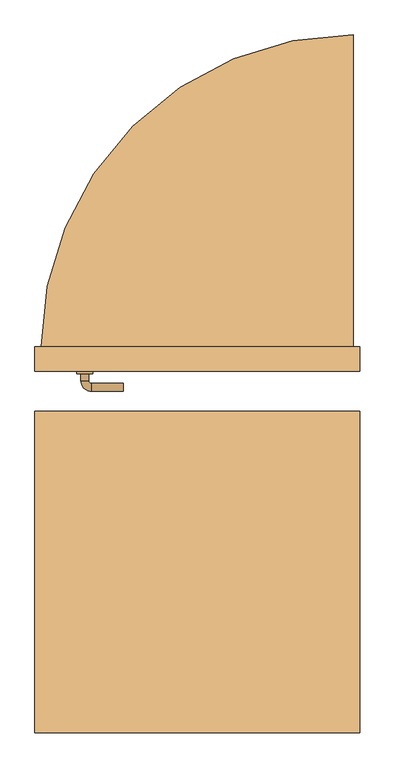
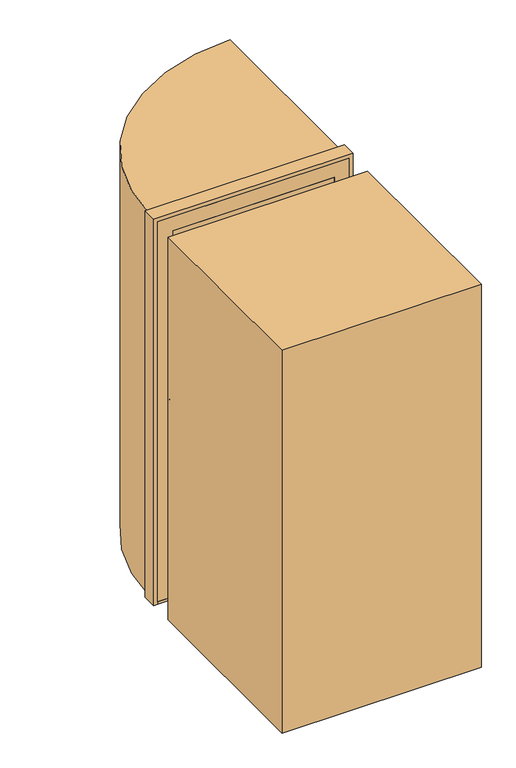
"""IFC4 building model written with IfcOpenShell, lengths in millimetres: door geometry, Дверь_Стальная_Наружная_Однопольная_ГОСТ_31173-2016 : 1010 х 2070(h)_Л_Обычная_с Порогом."""

from ifc_helpers import new_model, si_unit, point, frame, frame_2d, origin, origin_with_axes, place, context, project, spatial, polyline, circle_curve, ellipse_curve, trimmed, segment, composite_curve, outline, extrude, source, transform, mapped, element, save
from ifc_brep_helpers import plane_surface, cylinder_surface, revolved_surface, advanced_brep


def door_b13809c9(model_context):
    return source(origin(), model_context, "Body", "SolidModel", [
        extrude(outline(polyline([(-505.0, -1100.0), (-505.0, -100.0), (505.0, -100.0), (505.0, -1100.0), (-505.0, -1100.0)])), origin_with_axes(), (0.0, 0.0, 1.0), 2050.0),
        extrude(outline(composite_curve([segment(polyline([(485.0, 1070.0), (485.0, 100.0), (-485.0, 100.0)]), True, "CONTINUOUS"), segment(trimmed(circle_curve(frame_2d((485.0, 100.0)), 970.0), [point((-485.0, 100.0))], [point((485.0, 1070.0))], False, "CARTESIAN"), True, "CONTINUOUS")], self_intersect=False)), origin_with_axes(), (0.0, 0.0, 1.0), 2050.0),
        advanced_brep(
        [(-230.0, 162.0, 987.5), (-230.0, 138.0, 987.5), (-330.0, 162.0, 987.5), (-330.0, 138.0, 987.5), (-362.0, 130.0, 987.5), (-338.0, 130.0, 987.5), (-362.0, 108.0, 987.5), (-338.0, 108.0, 987.5), (-362.0, -5.0, 987.5), (-338.0, -5.0, 987.5), (-338.0, 17.0, 987.5), (-362.0, 17.0, 987.5), (-330.0, -37.0, 987.5), (-330.0, -13.0, 987.5), (-230.0, -37.0, 987.5), (-230.0, -13.0, 987.5), (-375.0, 108.0, 987.5), (-325.0, 108.0, 987.5), (-375.0, 17.0, 987.5), (-325.0, 17.0, 987.5)],
        [
            (0, 1, circle_curve(frame((-230.0, 150.0, 987.5), z_axis=(1.0, 0.0, 0.0), x_axis=(0.0, -1.0, 0.0)), 12.0)),
            (1, 0, circle_curve(frame((-230.0, 150.0, 987.5), z_axis=(1.0, 0.0, 0.0), x_axis=(0.0, -1.0, 0.0)), 12.0)),
            (0, 2),
            (2, 3, circle_curve(frame((-330.0, 150.0, 987.5), z_axis=(1.0, 0.0, 0.0), x_axis=(0.0, -1.0, 0.0)), 12.0)),
            (3, 1),
            (3, 2, circle_curve(frame((-330.0, 150.0, 987.5), z_axis=(1.0, 0.0, 0.0), x_axis=(0.0, -1.0, 0.0)), 12.0)),
            (2, 4, circle_curve(frame((-330.0, 130.0, 987.5), z_axis=(0.0, 0.0, 1.0), x_axis=(0.0, 1.0, 0.0)), 32.0)),
            (4, 5, circle_curve(frame((-350.0, 130.0, 987.5), z_axis=(0.0, 1.0, 0.0), x_axis=(1.0, 0.0, 0.0)), 12.0)),
            (5, 3, circle_curve(frame((-330.0, 130.0, 987.5), z_axis=(0.0, 0.0, -1.0), x_axis=(0.0, 1.0, 0.0)), 8.0)),
            (5, 4, circle_curve(frame((-350.0, 130.0, 987.5), z_axis=(0.0, 1.0, 0.0), x_axis=(1.0, 0.0, 0.0)), 12.0)),
            (4, 6),
            (6, 7, circle_curve(frame((-350.0, 108.0, 987.5), z_axis=(0.0, 1.0, 0.0), x_axis=(1.0, 0.0, 0.0)), 12.0)),
            (7, 5),
            (8, 9, circle_curve(frame((-350.0, -5.0, 987.5), z_axis=(0.0, 1.0, 0.0), x_axis=(1.0, 0.0, 0.0)), 12.0)),
            (9, 10),
            (10, 11, circle_curve(frame((-350.0, 17.0, 987.5), z_axis=(0.0, -1.0, 0.0), x_axis=(1.0, 0.0, 0.0)), 12.0)),
            (11, 8),
            (7, 6, circle_curve(frame((-350.0, 108.0, 987.5), z_axis=(0.0, 1.0, 0.0), x_axis=(1.0, 0.0, 0.0)), 12.0)),
            (9, 8, circle_curve(frame((-350.0, -5.0, 987.5), z_axis=(0.0, 1.0, 0.0), x_axis=(1.0, 0.0, 0.0)), 12.0)),
            (11, 10, circle_curve(frame((-350.0, 17.0, 987.5), z_axis=(0.0, -1.0, 0.0), x_axis=(1.0, 0.0, 0.0)), 12.0)),
            (8, 12, circle_curve(frame((-330.0, -5.0, 987.5), z_axis=(0.0, 0.0, 1.0), x_axis=(-1.0, 0.0, 0.0)), 32.0)),
            (12, 13, circle_curve(frame((-330.0, -25.0, 987.5), z_axis=(-1.0, 0.0, 0.0), x_axis=(0.0, 1.0, 0.0)), 12.0)),
            (13, 9, circle_curve(frame((-330.0, -5.0, 987.5), z_axis=(0.0, 0.0, -1.0), x_axis=(-1.0, 0.0, 0.0)), 8.0)),
            (13, 12, circle_curve(frame((-330.0, -25.0, 987.5), z_axis=(-1.0, 0.0, 0.0), x_axis=(0.0, 1.0, 0.0)), 12.0)),
            (14, 15, circle_curve(frame((-230.0, -25.0, 987.5), z_axis=(1.0, 0.0, 0.0), x_axis=(0.0, 1.0, 0.0)), 12.0)),
            (15, 14, circle_curve(frame((-230.0, -25.0, 987.5), z_axis=(1.0, 0.0, 0.0), x_axis=(0.0, 1.0, 0.0)), 12.0)),
            (12, 14),
            (15, 13),
            (16, 17, circle_curve(frame((-350.0, 108.0, 987.5), z_axis=(0.0, 1.0, 0.0), x_axis=(1.0, 0.0, 0.0)), 25.0)),
            (17, 16, circle_curve(frame((-350.0, 108.0, 987.5), z_axis=(0.0, 1.0, 0.0), x_axis=(1.0, 0.0, 0.0)), 25.0)),
            (18, 19, circle_curve(frame((-350.0, 17.0, 987.5), z_axis=(0.0, -1.0, 0.0), x_axis=(1.0, 0.0, 0.0)), 25.0)),
            (19, 18, circle_curve(frame((-350.0, 17.0, 987.5), z_axis=(0.0, -1.0, 0.0), x_axis=(1.0, 0.0, 0.0)), 25.0)),
            (17, 19),
            (18, 16),
        ],
        [
            plane_surface(frame((-230.0, 150.0, 987.5), z_axis=(1.0, 0.0, 0.0), x_axis=(0.0, 0.0, 1.0))),
            cylinder_surface(frame((-230.0, 150.0, 987.5), z_axis=(1.0, 0.0, 0.0), x_axis=(0.0, -1.0, 0.0)), 12.0),
            revolved_surface(trimmed(ellipse_curve(frame((-330.0, 150.0, 987.5), z_axis=(1.0, 0.0, 0.0), x_axis=(0.0, -1.0, 0.0)), 12.0, 12.0), [point((-330.0, 162.0, 987.5))], [point((-330.0, 138.0, 987.5))], True, "CARTESIAN"), (-330.0, 130.0, 987.5), (0.0, 0.0, 1.0)),
            revolved_surface(trimmed(ellipse_curve(frame((-330.0, 150.0, 987.5), z_axis=(1.0, 0.0, 0.0), x_axis=(0.0, -1.0, 0.0)), 12.0, 12.0), [point((-330.0, 138.0, 987.5))], [point((-330.0, 162.0, 987.5))], True, "CARTESIAN"), (-330.0, 130.0, 987.5), (0.0, 0.0, 1.0)),
            cylinder_surface(frame((-350.0, 130.0, 987.5), z_axis=(0.0, 1.0, 0.0), x_axis=(1.0, 0.0, 0.0)), 12.0),
            revolved_surface(trimmed(ellipse_curve(frame((-350.0, -5.0, 987.5), z_axis=(0.0, 1.0, 0.0), x_axis=(1.0, 0.0, 0.0)), 12.0, 12.0), [point((-362.0, -5.0, 987.5))], [point((-338.0, -5.0, 987.5))], True, "CARTESIAN"), (-330.0, -5.0, 987.5), (0.0, 0.0, 1.0)),
            revolved_surface(trimmed(ellipse_curve(frame((-350.0, -5.0, 987.5), z_axis=(0.0, 1.0, 0.0), x_axis=(1.0, 0.0, 0.0)), 12.0, 12.0), [point((-338.0, -5.0, 987.5))], [point((-362.0, -5.0, 987.5))], True, "CARTESIAN"), (-330.0, -5.0, 987.5), (0.0, 0.0, 1.0)),
            plane_surface(frame((-230.0, -25.0, 987.5), z_axis=(1.0, 0.0, 0.0), x_axis=(0.0, 0.0, 1.0))),
            cylinder_surface(frame((-330.0, -25.0, 987.5), z_axis=(-1.0, 0.0, 0.0), x_axis=(0.0, 1.0, 0.0)), 12.0),
            plane_surface(frame((-325.0, 108.0, 987.5), z_axis=(0.0, 1.0, 0.0), x_axis=(0.0, 0.0, -1.0))),
            plane_surface(frame((-325.0, 17.0, 987.5), z_axis=(0.0, -1.0, 0.0), x_axis=(0.0, 0.0, 1.0))),
            cylinder_surface(frame((-350.0, 108.0, 987.5), z_axis=(0.0, -1.0, 0.0), x_axis=(1.0, 0.0, 0.0)), 25.0),
        ],
        [
            (0, [[1, 2]]),
            (1, [[-1, 3, 4, 5]]),
            (1, [[-2, -5, 6, -3]]),
            (2, [[-4, 7, 8, 9]]),
            (3, [[-6, -9, 10, -7]]),
            (4, [[-8, 11, 12, 13]]),
            (4, [[14, 15, 16, 17]]),
            (4, [[-10, -13, 18, -11]]),
            (4, [[19, -17, 20, -15]]),
            (5, [[-14, 21, 22, 23]]),
            (6, [[-19, -23, 24, -21]]),
            (7, [[25, 26]]),
            (8, [[-22, 27, -26, 28]]),
            (8, [[-24, -28, -25, -27]]),
            (9, [[29, 30], [-12, -18]]),
            (10, [[31, 32], [-16, -20]]),
            (11, [[-30, 33, -31, 34]]),
            (11, [[-29, -34, -32, -33]]),
        ],
    ),
        extrude(outline(composite_curve([segment(trimmed(circle_curve(frame_2d((887.5, -350.0)), 25.0), [point((887.5, -375.0))], [point((887.5, -325.0))], False, "CARTESIAN"), True, "CONTINUOUS"), segment(trimmed(circle_curve(frame_2d((887.5, -350.0)), 25.0), [point((887.5, -325.0))], [point((887.5, -375.0))], False, "CARTESIAN"), True, "CONTINUOUS")], self_intersect=False)), frame((0.0, 17.0, 0.0), z_axis=(0.0, 1.0, 0.0), x_axis=(0.0, 0.0, 1.0)), (0.0, 0.0, 1.0), 91.0),
        extrude(outline(polyline([(15.0, -485.0), (15.0, -410.0), (1975.0, -410.0), (1975.0, 410.0), (15.0, 410.0), (15.0, 485.0), (2050.0, 485.0), (2050.0, -485.0), (15.0, -485.0)])), frame((0.0, 25.0, 0.0), z_axis=(0.0, 1.0, 0.0), x_axis=(0.0, 0.0, 1.0)), (0.0, 0.0, 1.0), 75.0),
        extrude(outline(polyline([(0.0, 505.0), (2070.0, 505.0), (2070.0, -505.0), (0.0, -505.0), (0.0, -485.0), (2050.0, -485.0), (2050.0, 485.0), (0.0, 485.0), (0.0, 505.0)])), frame((0.0, 25.0, 0.0), z_axis=(0.0, 1.0, 0.0), x_axis=(0.0, 0.0, 1.0)), (0.0, 0.0, 1.0), 75.0),
        extrude(outline(polyline([(485.0, 100.0), (485.0, 25.0), (-485.0, 25.0), (-485.0, 100.0), (485.0, 100.0)])), origin_with_axes(), (0.0, 0.0, 1.0), 15.0),
        extrude(outline(polyline([(410.0, 100.0), (410.0, 25.0), (-410.0, 25.0), (-410.0, 100.0), (410.0, 100.0)])), frame((0.0, 0.0, 15.0), z_axis=(0.0, 0.0, 1.0), x_axis=(1.0, 0.0, 0.0)), (0.0, 0.0, 1.0), 1960.0),
    ])


if __name__ == "__main__":
    model = new_model("IFC4")
    model_context = context("Model", 3, world=origin())
    ifc_project = project(units=[si_unit("LENGTHUNIT", "METRE", prefix="MILLI")], contexts=[model_context])
    site = spatial("IfcSite", under=ifc_project)
    building = spatial("IfcBuilding", under=site)
    placement = place(None, origin())
    door_shape = door_b13809c9(model_context)
    element("IfcDoor", 1, ObjectType="Дверь_Стальная_Наружная_Однопольная_ГОСТ_31173-2016 : 1010 х 2070(h)_Л_Обычная_с Порогом", at=placement, inside=building, context=model_context, shape_type="MappedRepresentation", body=[
        mapped(door_shape, transform((0.0, 0.0, 0.0), x_axis=(1.0, 0.0, 0.0), y_axis=(0.0, 1.0, 0.0), z_axis=(0.0, 0.0, 1.0))),
    ])
    save(model, "model.ifc")
